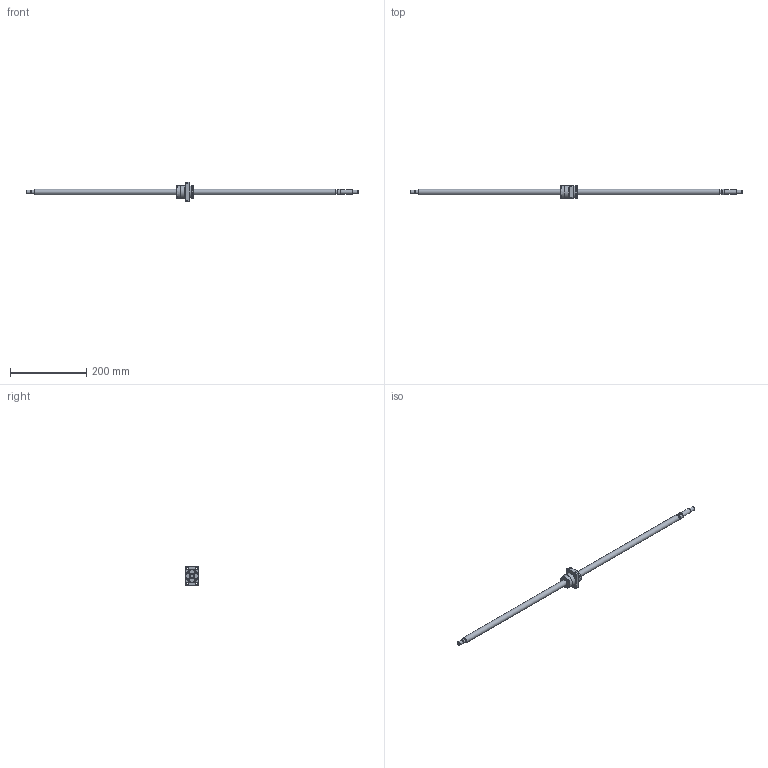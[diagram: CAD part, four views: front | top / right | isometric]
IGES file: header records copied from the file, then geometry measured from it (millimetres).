
Start section: Data from Parasolid IGES Translator 26.0.171, Copyright(c) 2006 Siemens PLM Software. All Rights Reserved.
Global section: file name: BNK1510-5.6G0+871LC5Y(416.50).igs; native system: By Siemens PLM Incorporated; preprocessor: XPlus GENERIC/IGES 26.0.171; author: Noname; organization: Noname; date: 20240709.092324; units: millimetre
Bounding box: 871 x 34 x 50 mm (x, y, z)
Surface area: 52333.6 mm2 (no closed solid volume)
Topology: 0 solids, 0 shells, 140 faces, 649 edges, 589 vertices
Faces by surface type: extrusion 76, revolution 64
